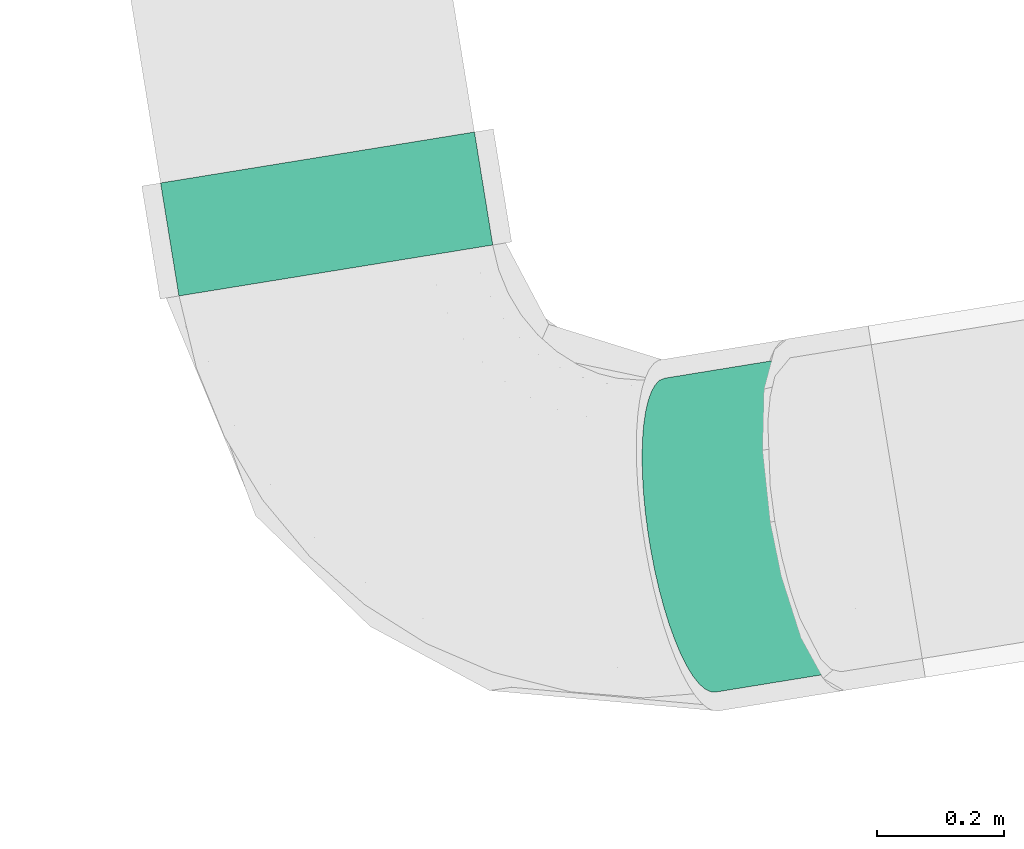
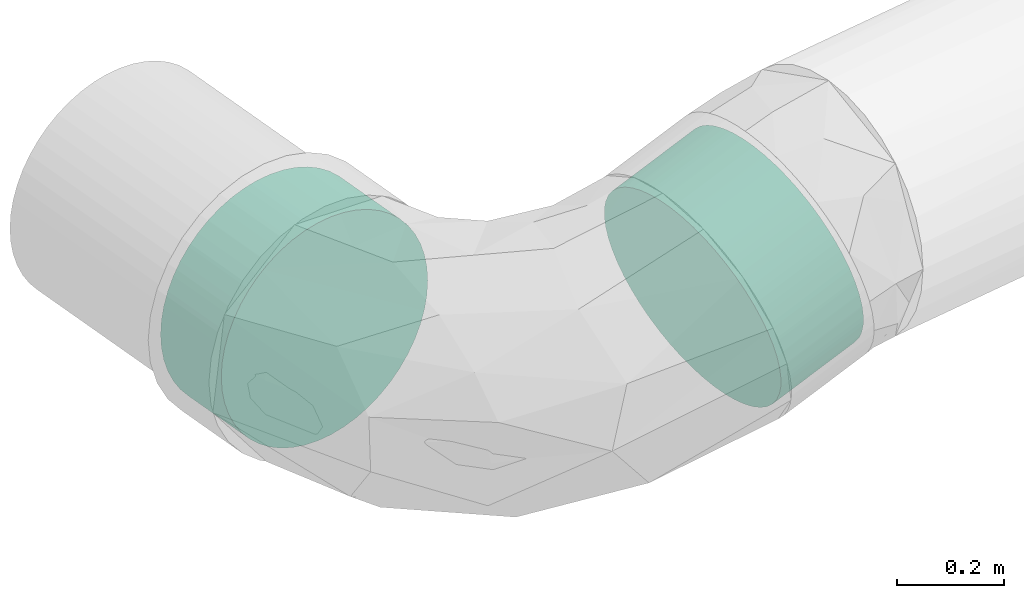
# One storey, part 25 of 39: 2 flow segments.
"""IFC2X3 building model written with IfcOpenShell, lengths in millimetres."""

from ifc_helpers import new_model, entity, si_unit, converted_unit, derived_unit, direction, frame, frame_2d, origin, origin_with_axes, place, context, subcontext, project, spatial, circle, extrude, type_object, element, save


model = new_model("IFC2X3")

# Units and contexts
model_context = context("Model", 3, precision=0.01, world=origin(), true_north=direction((6.12323399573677e-17, 1.0)))
plan_context = context("Plan", 3, precision=1e-05, world=origin_with_axes())
body_context = subcontext(model_context, "Body", "Model", "MODEL_VIEW")
ifc_project = project(units=[converted_unit("PLANEANGLEUNIT", "DEGREE", entity("IfcPositiveLengthMeasure", 0.0174532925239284), si_unit("PLANEANGLEUNIT", "RADIAN"), dimensions=[0, 0, 0, 0, 0, 0, 0]), si_unit("AREAUNIT", "SQUARE_METRE"), si_unit("LENGTHUNIT", "METRE", prefix="MILLI"), si_unit("MASSUNIT", "GRAM", prefix="KILO"), si_unit("POWERUNIT", "WATT"), si_unit("PRESSUREUNIT", "PASCAL", prefix="KILO"), si_unit("FORCEUNIT", "NEWTON", prefix="KILO"), si_unit("ELECTRICVOLTAGEUNIT", "VOLT"), si_unit("ELECTRICCURRENTUNIT", "AMPERE"), si_unit("THERMODYNAMICTEMPERATUREUNIT", "DEGREE_CELSIUS"), si_unit("TIMEUNIT", "SECOND"), si_unit("VOLUMEUNIT", "CUBIC_METRE"), derived_unit("LINEARVELOCITYUNIT", [(si_unit("LENGTHUNIT", "METRE"), 1), (si_unit("TIMEUNIT", "SECOND"), -1)]), derived_unit("VOLUMETRICFLOWRATEUNIT", [(si_unit("VOLUMEUNIT", "CUBIC_METRE"), 1), (si_unit("TIMEUNIT", "SECOND"), -1)]), derived_unit("THERMALTRANSMITTANCEUNIT", [(si_unit("POWERUNIT", "WATT"), 1), (si_unit("THERMODYNAMICTEMPERATUREUNIT", "KELVIN"), -1), (si_unit("AREAUNIT", "SQUARE_METRE"), -1)]), derived_unit("SOUNDPRESSUREUNIT", [(si_unit("PRESSUREUNIT", "PASCAL"), 1)])], contexts=[model_context, plan_context])

# Site, building, storey
site_placement = place(None, frame((-0.00071070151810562, 0.00438415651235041, 0.0), z_axis=(0.0, 0.0, 1.0), x_axis=(-0.160236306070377, 0.987078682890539, 0.0)))
site = spatial("IfcSite", under=ifc_project, at=site_placement, Name="Default", CompositionType="ELEMENT")
building_placement = place(site_placement, origin_with_axes())
building = spatial("IfcBuilding", under=site, at=building_placement, CompositionType="ELEMENT")
storey_placement = place(building_placement, frame((0.0, 0.0, 50999.9999999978), z_axis=(0.0, 0.0, 1.0), x_axis=(1.0, 0.0, 0.0)))
storey = spatial("IfcBuildingStorey", under=building, at=storey_placement, Name="Nivå D", CompositionType="ELEMENT", Elevation=50999.9999999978)

# Flow segments
duct_segment_type = type_object("IfcDuctSegmentType", Name="Round Duct:KK001T - Spiro kanaler, Forsinket stål", PredefinedType="NOTDEFINED")
flow_segment_1_placement = place(storey_placement, origin_with_axes())
element("IfcFlowSegment", 1, at=flow_segment_1_placement, inside=storey, type_object=duct_segment_type, Name="Round Duct:KK001T - Spiro kanaler, Forsinket stål", ObjectType="Round Duct:KK001T - Spiro kanaler, Forsinket stål", context=body_context, shape_type="SweptSolid", body=[
    extrude(circle(Radius=250.0, at=frame_2d((-6.93034962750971e-11, 8.66293703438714e-12), x_axis=(1.0, 0.0))), frame((779411.619644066, -599012.905078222, 3100.0), z_axis=(1.0, 0.0, 0.0), x_axis=(0.0, 1.0, 0.0)), (0.0, 0.0, 1.0), 180.000000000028),
])
flow_segment_2_placement = place(storey_placement, origin_with_axes())
element("IfcFlowSegment", 2, at=flow_segment_2_placement, inside=storey, type_object=duct_segment_type, Name="Round Duct:KK001T - Spiro kanaler, Forsinket stål", ObjectType="Round Duct:KK001T - Spiro kanaler, Forsinket stål", context=body_context, shape_type="SweptSolid", body=[
    extrude(circle(Radius=250.0, at=frame_2d((-1.20229503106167e-24, 1.67355092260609e-11), x_axis=(1.0, 0.0))), frame((778911.619644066, -599495.867991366, 3229.40952255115), z_axis=(0.0, -0.965925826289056, 0.258819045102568), x_axis=(1.0, 0.0, 0.0)), (0.0, 0.0, 1.0), 206.9144122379),
])

save(model, "model.ifc")
